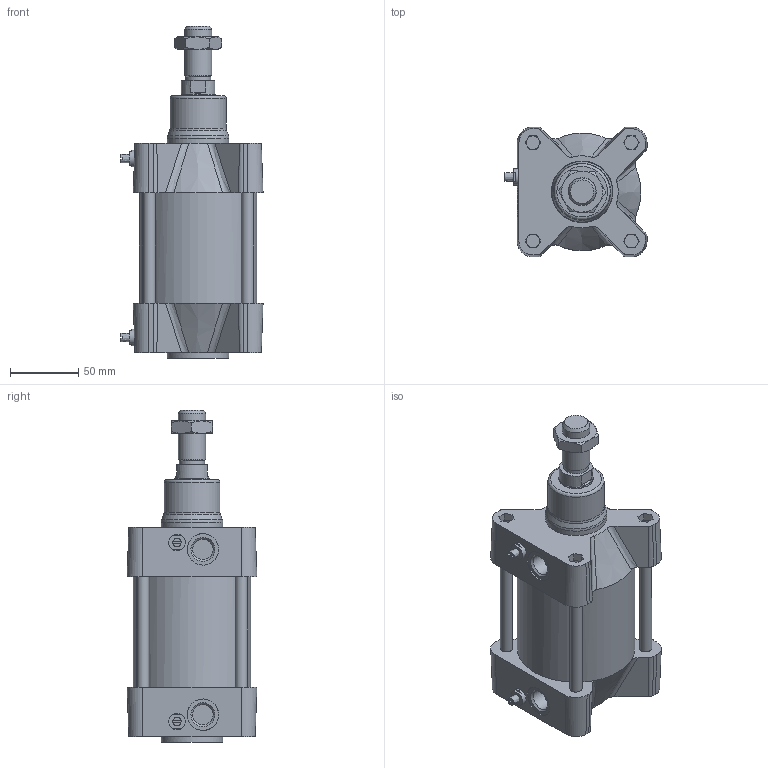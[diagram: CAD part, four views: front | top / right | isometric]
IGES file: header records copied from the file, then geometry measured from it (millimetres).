
Global section: file name: 1393_080_0025_01; native system: Autodesk Inventor 2014; preprocessor: unknown; author: A. Manieri; date: 20151130.150702; units: millimetre
Bounding box: 104 x 95 x 243 mm (x, y, z)
Volume: 924578.1 mm3; surface area: 159070.7 mm2
Topology: 3 solids, 5 shells, 233 faces, 578 edges, 377 vertices
Faces by surface type: bspline 233
